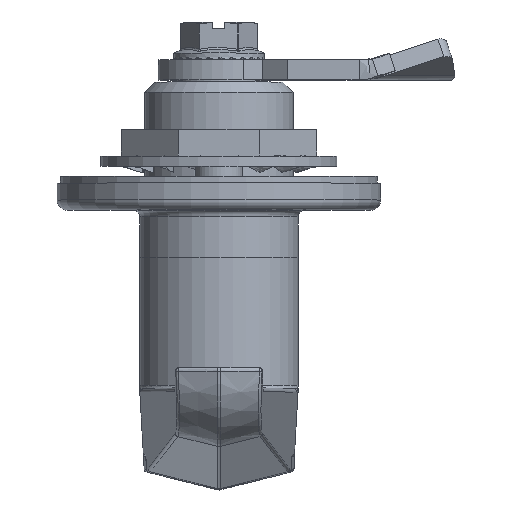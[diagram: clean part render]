
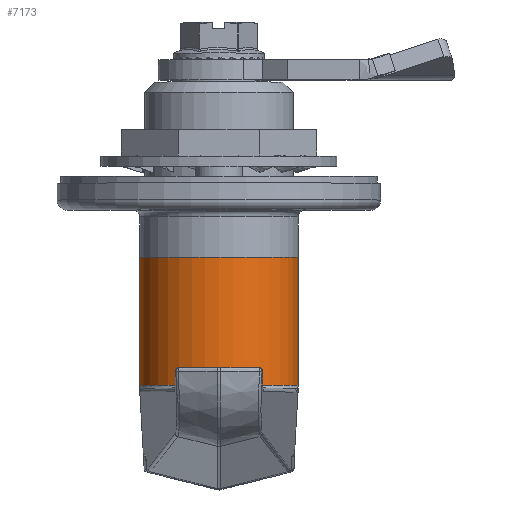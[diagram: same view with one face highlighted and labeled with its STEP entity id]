
A CAD part, top view. The second image highlights one B-rep face of the part: STEP entity #7173.
In plain terms, the highlighted cylindrical face has radius 11.75 mm (diameter 23.5 mm), a partial arc.
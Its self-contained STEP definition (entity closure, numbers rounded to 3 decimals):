
#787=CARTESIAN_POINT('',(0.,15.5,0.));
#788=DIRECTION('',(0.,1.,0.));
#789=DIRECTION('',(-1.,0.,0.));
#790=AXIS2_PLACEMENT_3D('',#787,#788,#789);
#2272=DIRECTION('',(0.,1.,0.));
#2273=VECTOR('',#2272,19.);
#2274=CARTESIAN_POINT('',(11.75,15.5,0.));
#2275=LINE('',#2274,#2273);
#2276=DIRECTION('',(0.,1.,0.));
#2277=VECTOR('',#2276,19.);
#2278=CARTESIAN_POINT('',(-11.75,15.5,0.));
#2279=LINE('',#2278,#2277);
#2285=CARTESIAN_POINT('',(0.,34.5,0.));
#2286=DIRECTION('',(0.,1.,0.));
#2287=DIRECTION('',(-1.,0.,0.));
#2288=AXIS2_PLACEMENT_3D('',#2285,#2286,#2287);
#2665=CARTESIAN_POINT('',(-11.75,34.5,0.));
#2666=CARTESIAN_POINT('',(11.75,34.5,0.));
#2667=VERTEX_POINT('',#2665);
#2668=VERTEX_POINT('',#2666);
#2725=CARTESIAN_POINT('',(11.75,15.5,0.));
#2727=VERTEX_POINT('',#2725);
#2729=CARTESIAN_POINT('',(-11.75,15.5,0.));
#2730=VERTEX_POINT('',#2729);
#7159=CARTESIAN_POINT('',(0.,12.57,0.));
#7160=DIRECTION('',(0.,1.,0.));
#7161=DIRECTION('',(-1.,0.,0.));
#7162=AXIS2_PLACEMENT_3D('',#7159,#7160,#7161);
#7163=CYLINDRICAL_SURFACE('',#7162,11.75);
#7164=ORIENTED_EDGE('',*,*,#4265,.F.);
#7166=ORIENTED_EDGE('',*,*,#7165,.T.);
#7168=ORIENTED_EDGE('',*,*,#7167,.T.);
#7170=ORIENTED_EDGE('',*,*,#7169,.F.);
#7171=EDGE_LOOP('',(#7164,#7166,#7168,#7170));
#7172=FACE_OUTER_BOUND('',#7171,.F.);
#7173=ADVANCED_FACE('',(#7172),#7163,.T.);
#791=CIRCLE('',#790,11.75);
#2289=CIRCLE('',#2288,11.75);
#4265=EDGE_CURVE('',#2730,#2727,#791,.T.);
#7165=EDGE_CURVE('',#2730,#2667,#2279,.T.);
#7167=EDGE_CURVE('',#2667,#2668,#2289,.T.);
#7169=EDGE_CURVE('',#2727,#2668,#2275,.T.);
